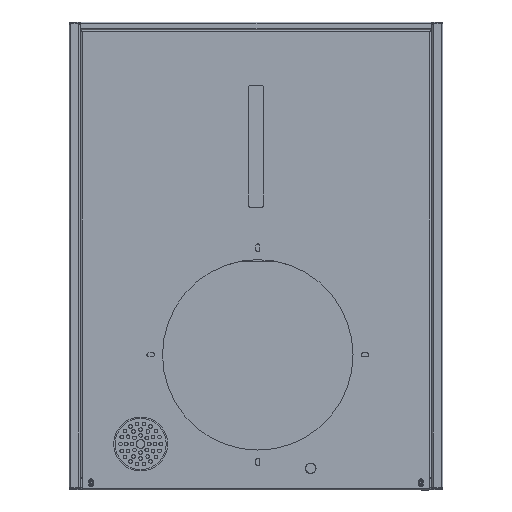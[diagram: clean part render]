
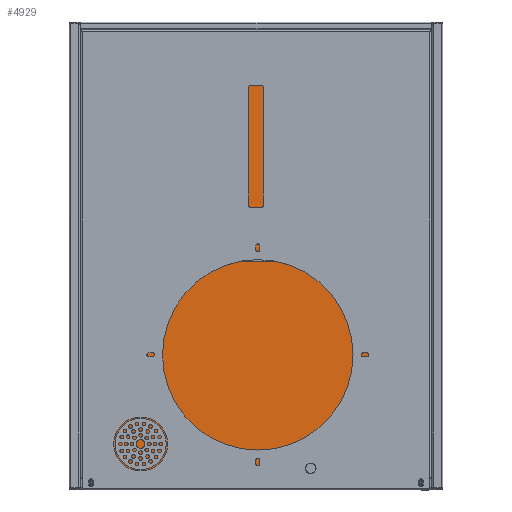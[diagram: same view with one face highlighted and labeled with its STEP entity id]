
A CAD part, top view. The second image highlights one B-rep face of the part: STEP entity #4929.
In plain terms, the highlighted planar face has unit normal (0, 0, 1).
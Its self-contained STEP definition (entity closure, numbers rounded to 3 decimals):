
#1157 = FACE_BOUND ( 'NONE', #12685, .T. ) ;
#2096 = LINE ( 'NONE', #14217, #3393 ) ;
#2499 = VERTEX_POINT ( 'NONE', #51323 ) ;
#2725 = CARTESIAN_POINT ( 'NONE',  ( 0.3, 318.5, 1. ) ) ;
#2878 = EDGE_LOOP ( 'NONE', ( #16935, #48620, #52741, #46852 ) ) ;
#3174 = EDGE_CURVE ( 'NONE', #34527, #12019, #12629, .T. ) ;
#3393 = VECTOR ( 'NONE', #10194, 1000. ) ;
#4929 = ADVANCED_FACE ( 'NONE', ( #1157, #22145 ), #52264, .F. ) ;
#5386 = EDGE_CURVE ( 'NONE', #34527, #33695, #44442, .T. ) ;
#9303 = VERTEX_POINT ( 'NONE', #2725 ) ;
#9628 = AXIS2_PLACEMENT_3D ( 'NONE', #20139, #49481, #24375 ) ;
#9704 = ORIENTED_EDGE ( 'NONE', *, *, #33858, .F. ) ;
#10194 = DIRECTION ( 'NONE',  ( 0., -1., 0. ) ) ;
#10773 = CIRCLE ( 'NONE', #29001, 2.4 ) ;
#10955 = VECTOR ( 'NONE', #28337, 1000. ) ;
#11778 = LINE ( 'NONE', #48587, #43930 ) ;
#12019 = VERTEX_POINT ( 'NONE', #29126 ) ;
#12629 = LINE ( 'NONE', #12931, #33661 ) ;
#12685 = EDGE_LOOP ( 'NONE', ( #9704, #36644 ) ) ;
#12848 = EDGE_CURVE ( 'NONE', #12019, #2499, #11778, .T. ) ;
#12875 = DIRECTION ( 'NONE',  ( 0., -1., 0. ) ) ;
#12931 = CARTESIAN_POINT ( 'NONE',  ( -258., 644., 1. ) ) ;
#14217 = CARTESIAN_POINT ( 'NONE',  ( 258., 644., 1. ) ) ;
#16935 = ORIENTED_EDGE ( 'NONE', *, *, #12848, .T. ) ;
#20139 = CARTESIAN_POINT ( 'NONE',  ( 2.7, 318.5, 1. ) ) ;
#22145 = FACE_OUTER_BOUND ( 'NONE', #2878, .T. ) ;
#22425 = CARTESIAN_POINT ( 'NONE',  ( 2.7, 318.5, 1. ) ) ;
#24312 = CARTESIAN_POINT ( 'NONE',  ( -258., 644., 1. ) ) ;
#24375 = DIRECTION ( 'NONE',  ( 1., 0., 0. ) ) ;
#26624 = DIRECTION ( 'NONE',  ( 1., 0., 0. ) ) ;
#28337 = DIRECTION ( 'NONE',  ( 1., 0., 0. ) ) ;
#28457 = CARTESIAN_POINT ( 'NONE',  ( 260., 644., 1. ) ) ;
#29001 = AXIS2_PLACEMENT_3D ( 'NONE', #22425, #51729, #26624 ) ;
#29126 = CARTESIAN_POINT ( 'NONE',  ( -258., 0., 1. ) ) ;
#33661 = VECTOR ( 'NONE', #12875, 1000. ) ;
#33695 = VERTEX_POINT ( 'NONE', #39979 ) ;
#33858 = EDGE_CURVE ( 'NONE', #42456, #9303, #45616, .T. ) ;
#34527 = VERTEX_POINT ( 'NONE', #24312 ) ;
#34828 = EDGE_CURVE ( 'NONE', #9303, #42456, #10773, .T. ) ;
#36264 = CARTESIAN_POINT ( 'NONE',  ( 5.1, 318.5, 1. ) ) ;
#36644 = ORIENTED_EDGE ( 'NONE', *, *, #34828, .F. ) ;
#39979 = CARTESIAN_POINT ( 'NONE',  ( 258., 644., 1. ) ) ;
#40793 = EDGE_CURVE ( 'NONE', #33695, #2499, #2096, .T. ) ;
#42456 = VERTEX_POINT ( 'NONE', #36264 ) ;
#43350 = AXIS2_PLACEMENT_3D ( 'NONE', #52629, #52118, #52073 ) ;
#43930 = VECTOR ( 'NONE', #47699, 1000. ) ;
#44442 = LINE ( 'NONE', #28457, #10955 ) ;
#45616 = CIRCLE ( 'NONE', #9628, 2.4 ) ;
#46852 = ORIENTED_EDGE ( 'NONE', *, *, #3174, .T. ) ;
#47699 = DIRECTION ( 'NONE',  ( 1., 0., 0. ) ) ;
#48587 = CARTESIAN_POINT ( 'NONE',  ( 260., 0., 1. ) ) ;
#48620 = ORIENTED_EDGE ( 'NONE', *, *, #40793, .F. ) ;
#49481 = DIRECTION ( 'NONE',  ( 0., 0., 1. ) ) ;
#51323 = CARTESIAN_POINT ( 'NONE',  ( 258., 0., 1. ) ) ;
#51729 = DIRECTION ( 'NONE',  ( 0., 0., 1. ) ) ;
#52073 = DIRECTION ( 'NONE',  ( -1., 0., 0. ) ) ;
#52118 = DIRECTION ( 'NONE',  ( 0., 0., -1. ) ) ;
#52264 = PLANE ( 'NONE',  #43350 ) ;
#52629 = CARTESIAN_POINT ( 'NONE',  ( 260., 644., 1. ) ) ;
#52741 = ORIENTED_EDGE ( 'NONE', *, *, #5386, .F. ) ;
